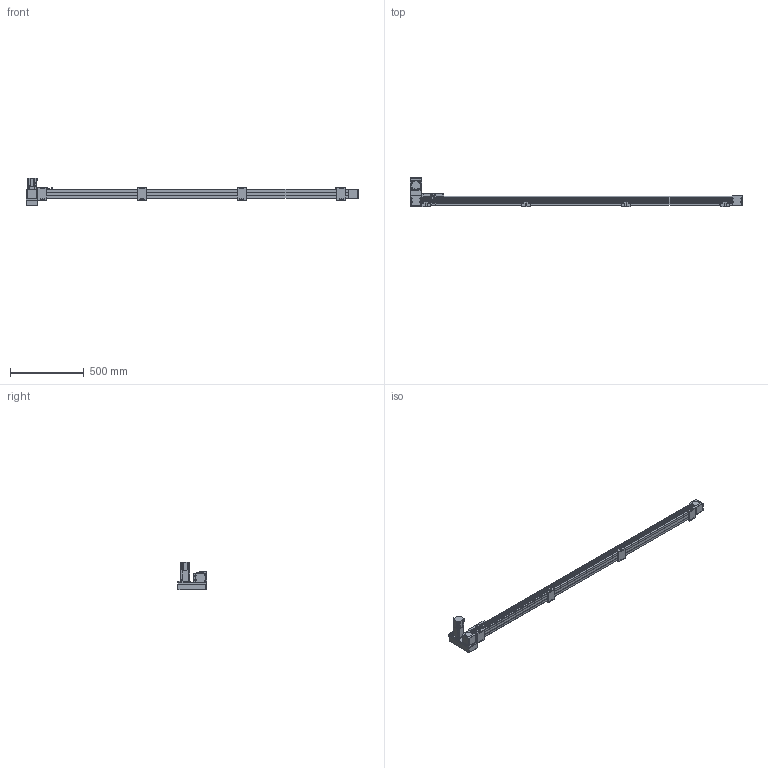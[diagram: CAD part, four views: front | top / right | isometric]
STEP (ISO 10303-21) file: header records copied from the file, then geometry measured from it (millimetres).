
FILE_DESCRIPTION(/* description */ ('STEP AP214'),/* implementation_level */ '2;1');
FILE_NAME(/* name */ 'SK60-P13-S1950-LU-T40-C1-N(0)',/* time_stamp */ '2023-04-06T04:48:21+02:00',/* author */ ('License CC BY-ND 4.0'),/* organization */ ('CADENAS'),/* preprocessor_version */ 'ST-DEVELOPER v19.3',/* originating_system */ 'PARTsolutions',/* authorisation */ ' ');
FILE_SCHEMA (('AUTOMOTIVE_DESIGN {1 0 10303 214 3 1 1}'));
Length unit declared in the file: millimetre
Products named in the file (10): SK60-P13-S1950-LU-T40-C1-N(0); PSC140-sensor; SK60-S450_seat; SK60-S450-BL-C1_slider; SK60_body3; SK60_body6; SK60-BL_body2; T40-p1; SK60-LU_fb; SK60-S1950-LU-C1_body
Assembly tree (18 placements, depth 2):
  SK60-P13-S1950-LU-T40-C1-N(0)
    PSC140-sensor  x3
    SK60-S450_seat  x4
    SK60-S450-BL-C1_slider
    SK60_body3  x3
    SK60_body6  x2
    SK60-BL_body2  x2
    T40-p1
    SK60-LU_fb
    SK60-S1950-LU-C1_body
Bounding box: 2255.5 x 201 x 189.7 mm (x, y, z)
Volume: 8829214.7 mm3; surface area: 1052445.2 mm2
Topology: 18 solids, 18 shells, 898 faces, 2244 edges, 1477 vertices
Faces by surface type: plane 572, cylinder 294, cone 30, torus 2
Full cylindrical faces by diameter (mm): 2.8 x3, 3.3 x4, 4 x2, 4.5 x30, 4.6 x3, 4.917 x24, 5 x6, 5.478 x4, 5.5 x27, 6.5 x8, 7 x2, 8 x4, 8.5 x4, 9.988 x4, 10 x16, 14 x1, 47 x3, 50 x2
Entity records: 18671 total; most frequent: DIRECTION 3188, CARTESIAN_POINT 3152, ORIENTED_EDGE 2940, EDGE_CURVE 1470, AXIS2_PLACEMENT_3D 1070, LINE 1048, VECTOR 1048, VERTEX_POINT 1034
